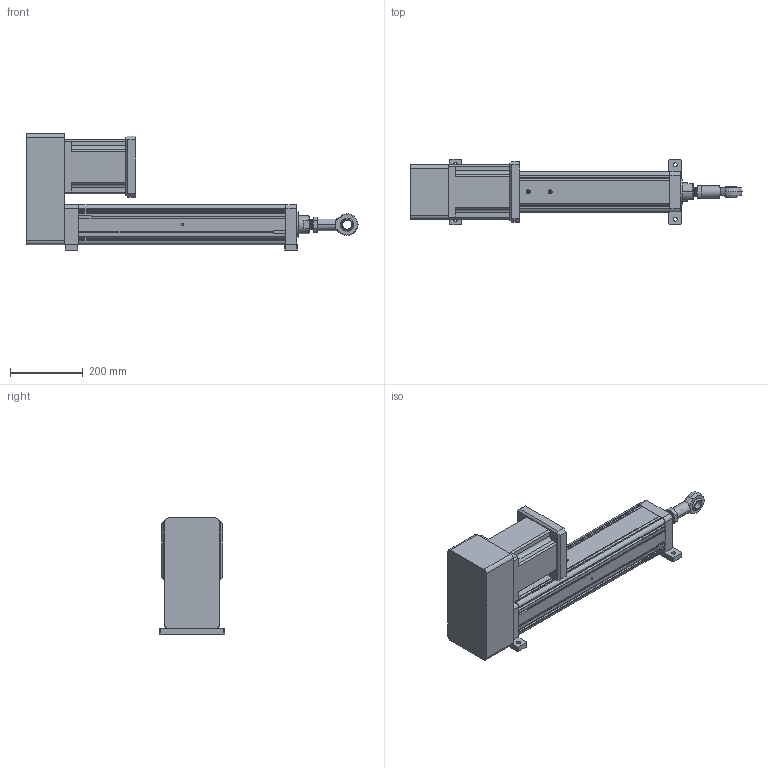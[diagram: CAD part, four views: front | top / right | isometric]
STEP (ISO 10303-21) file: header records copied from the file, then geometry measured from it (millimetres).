
FILE_DESCRIPTION (( 'STEP AP203' ), '1' );
FILE_NAME ('YRJ110-L400-H2K3.STEP', '2020-01-04T06:18:54', ( 'User' ), ( 'China' ), 'SwSTEP 2.0', 'SolidWorks 2016', '' );
FILE_SCHEMA (( 'CONFIG_CONTROL_DESIGN' ));
Length unit declared in the file: millimetre
Products named in the file (11): K3-110; H2-110-1; YRJ110-L400-H2K3; H2-110-2; K1-110; _BNC01-SI25T_K-R-001; 095-100俴最倰第; _BNC01-SI25T_K-R-002; 萇儂碟-110; BNC01-SI25T_K-R; 142熬厒儂
Assembly tree (10 placements, depth 4):
  YRJ110-L400-H2K3
    095-100俴最倰第
    萇儂碟-110
    142熬厒儂
    H2-110-1
    H2-110-2
    K3-110
      K1-110
      BNC01-SI25T_K-R
        _BNC01-SI25T_K-R-001
        _BNC01-SI25T_K-R-002
Bounding box: 915 x 180 x 320 mm (x, y, z)
Volume: 12440453.8 mm3; surface area: 1035381.7 mm2
Topology: 8 solids, 8 shells, 410 faces, 1133 edges, 729 vertices
Faces by surface type: plane 196, cylinder 166, cone 34, bspline 14
Entity records: 23179 total; most frequent: CARTESIAN_POINT 11776, ORIENTED_EDGE 2210, DIRECTION 2050, EDGE_CURVE 1105, VERTEX_POINT 729, VECTOR 684, LINE 684, AXIS2_PLACEMENT_3D 683
